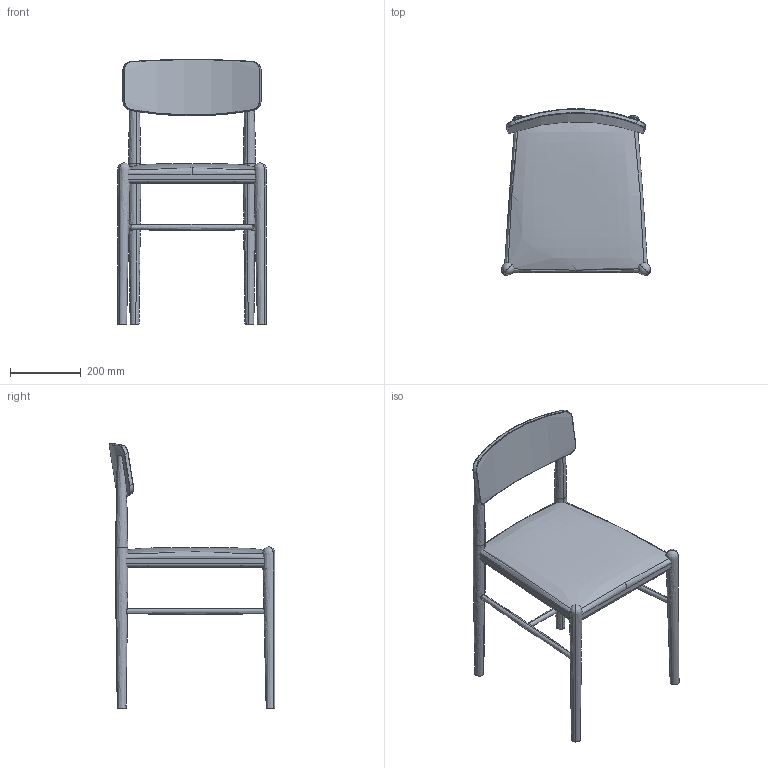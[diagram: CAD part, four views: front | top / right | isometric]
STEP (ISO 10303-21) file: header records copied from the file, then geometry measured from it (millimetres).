
FILE_DESCRIPTION(/* description */ (''),/* implementation_level */ '2;1');
FILE_NAME(/* name */ 'KINOSH~1',/* time_stamp */ '2020-06-05T09:38:08+09:00',/* author */ (''),/* organization */ (''),/* preprocessor_version */ 'ST-DEVELOPER v15',/* originating_system */ '',/* authorisation */ '');
FILE_SCHEMA (('AUTOMOTIVE_DESIGN'));
Length unit declared in the file: millimetre
Products named in the file (1): Document
Bounding box: 419.99 x 469.31 x 749.69 mm (x, y, z)
Volume: 10737969 mm3; surface area: 793655.2 mm2
Topology: 3 solids, 3 shells, 71 faces, 161 edges, 92 vertices
Faces by surface type: bspline 62, plane 9
Entity records: 6453 total; most frequent: CARTESIAN_POINT 5534, ORIENTED_EDGE 306, EDGE_CURVE 153, VERTEX_POINT 92, B_SPLINE_CURVE_WITH_KNOTS 77, EDGE_LOOP 75, ADVANCED_FACE 71, FACE_OUTER_BOUND 71
